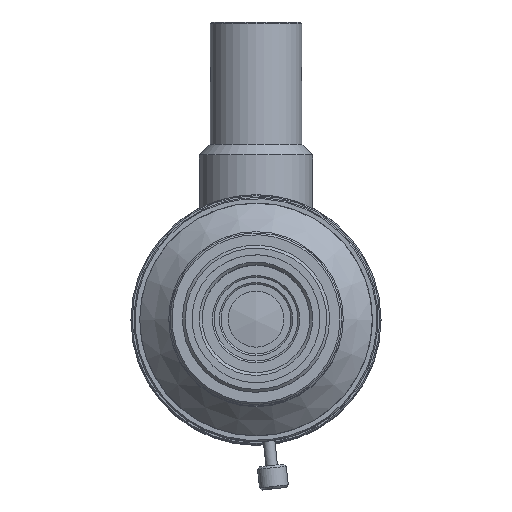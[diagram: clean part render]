
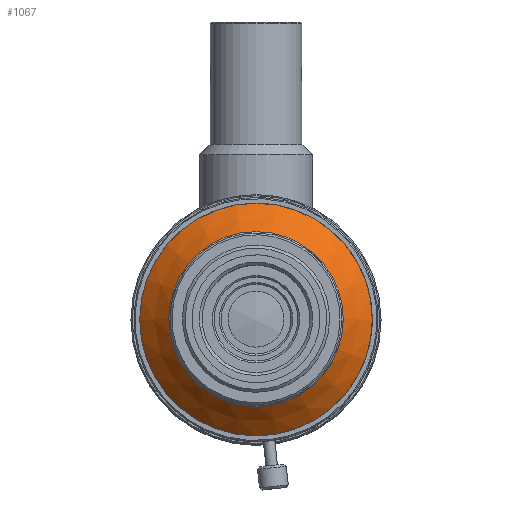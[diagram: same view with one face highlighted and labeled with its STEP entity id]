
A CAD part, top view. The second image highlights one B-rep face of the part: STEP entity #1067.
In plain terms, the highlighted conical face has half-angle 45 degrees and reference radius 20 mm.
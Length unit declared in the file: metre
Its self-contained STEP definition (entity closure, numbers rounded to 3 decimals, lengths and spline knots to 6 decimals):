
#1067=ADVANCED_FACE('NONE',(#2667,#2668),#2669,.T.);
#2667=FACE_OUTER_BOUND('',#6623,.T.);
#2668=FACE_BOUND('',#6624,.T.);
#2669=CONICAL_SURFACE('',#6625,0.02,0.785);
#6623=EDGE_LOOP('',(#11390));
#6624=EDGE_LOOP('',(#11391));
#6625=AXIS2_PLACEMENT_3D('',#11392,#11393,#11394);
#11390=ORIENTED_EDGE('',*,*,#15164,.F.);
#11391=ORIENTED_EDGE('',*,*,#15161,.T.);
#11392=CARTESIAN_POINT('',(0.,0.0,-0.07497));
#11393=DIRECTION('',(0.,-0.0,-1.0));
#11394=DIRECTION('',(-1.0,0.0,0.));
#15161=EDGE_CURVE('NONE',#17305,#17305,#17306,.T.);
#15164=EDGE_CURVE('NONE',#17310,#17310,#17311,.T.);
#17305=VERTEX_POINT('',#21707);
#17306=CIRCLE('',#21708,0.015);
#17310=VERTEX_POINT('',#21712);
#17311=CIRCLE('',#21713,0.02);
#21707=CARTESIAN_POINT('',(-0.015,0.0,-0.06997));
#21708=AXIS2_PLACEMENT_3D('',#25674,#25675,#25676);
#21712=CARTESIAN_POINT('',(-0.02,0.0,-0.07497));
#21713=AXIS2_PLACEMENT_3D('',#25680,#25681,#25682);
#25674=CARTESIAN_POINT('',(0.,0.0,-0.06997));
#25675=DIRECTION('',(0.,0.0,-1.0));
#25676=DIRECTION('',(-1.0,0.0,0.));
#25680=CARTESIAN_POINT('',(0.,0.0,-0.07497));
#25681=DIRECTION('',(0.,0.0,-1.0));
#25682=DIRECTION('',(-1.0,0.0,0.));
